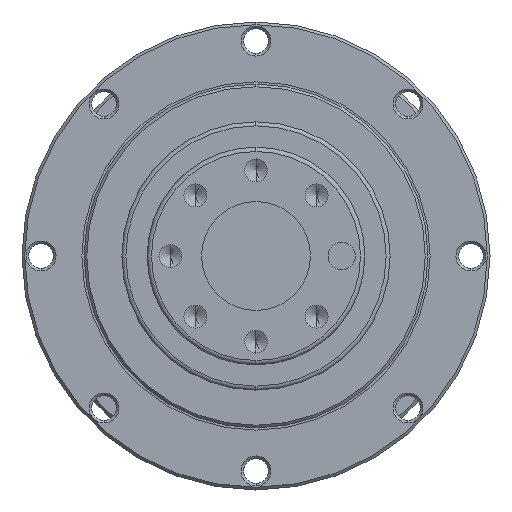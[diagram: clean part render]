
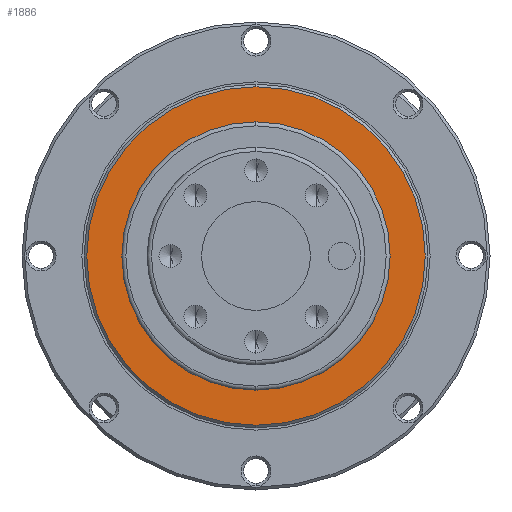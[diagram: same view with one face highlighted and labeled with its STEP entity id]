
A CAD part, left-side view. The second image highlights one B-rep face of the part: STEP entity #1886.
In plain terms, the highlighted planar face has unit normal (-1, 0, 0).
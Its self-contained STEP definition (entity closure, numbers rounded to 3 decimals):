
#227 = CARTESIAN_POINT ( 'NONE',  ( -143.459, 4.007, 0. ) ) ;
#269 = CARTESIAN_POINT ( 'NONE',  ( -143.459, 28.657, 0. ) ) ;
#290 = AXIS2_PLACEMENT_3D ( 'NONE', #227, #2067, #6300 ) ;
#309 = DIRECTION ( 'NONE',  ( 0., 0., 1. ) ) ;
#391 = EDGE_CURVE ( 'NONE', #2711, #2198, #3389, .T. ) ;
#418 = VERTEX_POINT ( 'NONE', #463 ) ;
#463 = CARTESIAN_POINT ( 'NONE',  ( -143.459, 4.007, 24.65 ) ) ;
#1195 = DIRECTION ( 'NONE',  ( -1., 0., 0. ) ) ;
#1385 = CIRCLE ( 'NONE', #290, 31.1 ) ;
#1668 = ORIENTED_EDGE ( 'NONE', *, *, #391, .T. ) ;
#1703 = CARTESIAN_POINT ( 'NONE',  ( -143.459, 4.007, 31.1 ) ) ;
#1886 = ADVANCED_FACE ( 'NONE', ( #3758, #5445 ), #6229, .F. ) ;
#1985 = ORIENTED_EDGE ( 'NONE', *, *, #6704, .F. ) ;
#2067 = DIRECTION ( 'NONE',  ( -1., 0., 0. ) ) ;
#2174 = CARTESIAN_POINT ( 'NONE',  ( -143.459, 4.007, 0. ) ) ;
#2198 = VERTEX_POINT ( 'NONE', #1703 ) ;
#2275 = AXIS2_PLACEMENT_3D ( 'NONE', #7687, #5304, #2927 ) ;
#2381 = CARTESIAN_POINT ( 'NONE',  ( -143.459, 4.007, 0. ) ) ;
#2711 = VERTEX_POINT ( 'NONE', #5509 ) ;
#2927 = DIRECTION ( 'NONE',  ( 0., 0., -1. ) ) ;
#3389 = CIRCLE ( 'NONE', #2275, 31.1 ) ;
#3437 = DIRECTION ( 'NONE',  ( -1., 0., 0. ) ) ;
#3655 = ORIENTED_EDGE ( 'NONE', *, *, #4271, .T. ) ;
#3758 = FACE_OUTER_BOUND ( 'NONE', #5323, .T. ) ;
#3809 = EDGE_LOOP ( 'NONE', ( #5676, #1985 ) ) ;
#4201 = DIRECTION ( 'NONE',  ( 0., 0., 1. ) ) ;
#4271 = EDGE_CURVE ( 'NONE', #2198, #2711, #1385, .T. ) ;
#4277 = AXIS2_PLACEMENT_3D ( 'NONE', #2174, #3437, #309 ) ;
#4367 = VERTEX_POINT ( 'NONE', #7483 ) ;
#4474 = DIRECTION ( 'NONE',  ( 0., 0., -1. ) ) ;
#4817 = EDGE_CURVE ( 'NONE', #418, #4367, #5820, .T. ) ;
#5304 = DIRECTION ( 'NONE',  ( -1., 0., 0. ) ) ;
#5323 = EDGE_LOOP ( 'NONE', ( #1668, #3655 ) ) ;
#5445 = FACE_BOUND ( 'NONE', #3809, .T. ) ;
#5509 = CARTESIAN_POINT ( 'NONE',  ( -143.459, 4.007, -31.1 ) ) ;
#5676 = ORIENTED_EDGE ( 'NONE', *, *, #4817, .F. ) ;
#5820 = CIRCLE ( 'NONE', #7526, 24.65 ) ;
#6229 = PLANE ( 'NONE',  #6783 ) ;
#6300 = DIRECTION ( 'NONE',  ( 0., 0., -1. ) ) ;
#6704 = EDGE_CURVE ( 'NONE', #4367, #418, #7651, .T. ) ;
#6783 = AXIS2_PLACEMENT_3D ( 'NONE', #269, #7494, #4474 ) ;
#7483 = CARTESIAN_POINT ( 'NONE',  ( -143.459, 4.007, -24.65 ) ) ;
#7494 = DIRECTION ( 'NONE',  ( 1., 0., 0. ) ) ;
#7526 = AXIS2_PLACEMENT_3D ( 'NONE', #2381, #1195, #4201 ) ;
#7651 = CIRCLE ( 'NONE', #4277, 24.65 ) ;
#7687 = CARTESIAN_POINT ( 'NONE',  ( -143.459, 4.007, 0. ) ) ;
